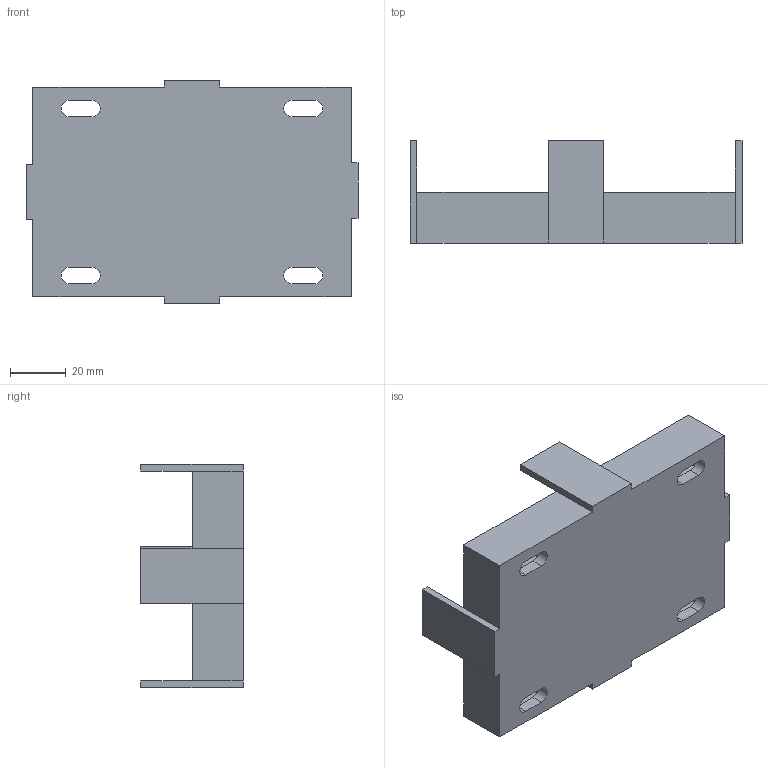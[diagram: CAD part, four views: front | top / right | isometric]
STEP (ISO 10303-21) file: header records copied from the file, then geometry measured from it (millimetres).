
FILE_DESCRIPTION(/* description */ (''),/* implementation_level */ '2;1');
FILE_NAME(/* name */ '/Users/davidflorian/Library/Mobile Documents/com~apple~CloudDocs/Vanderbilt/Papers/OTTO/Supplemental Material/3D-Printable-Components-STEP-Files/Chiller-Block-Holder.step',/* time_stamp */ '2020-06-30T23:00:52-05:00',/* author */ (''),/* organization */ (''),/* preprocessor_version */ 'ST-DEVELOPER v18.1',/* originating_system */ 'Autodesk Translation Framework v9.3.0.1241',/* authorisation */ '');
FILE_SCHEMA (('AUTOMOTIVE_DESIGN { 1 0 10303 214 3 1 1 }'));
Length unit declared in the file: millimetre
Products named in the file (1): Cold plate holder2
Bounding box: 119.3 x 36.8 x 80.4 mm (x, y, z)
Volume: 154451.5 mm3; surface area: 31288.7 mm2
Topology: 1 solids, 1 shells, 66 faces, 172 edges, 112 vertices
Faces by surface type: plane 58, cylinder 8
Entity records: 2037 total; most frequent: CARTESIAN_POINT 351, ORIENTED_EDGE 344, DIRECTION 322, EDGE_CURVE 172, LINE 156, VECTOR 156, VERTEX_POINT 112, AXIS2_PLACEMENT_3D 83
